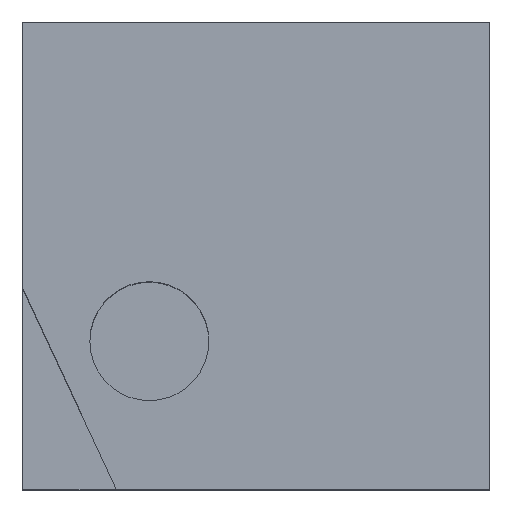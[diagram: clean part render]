
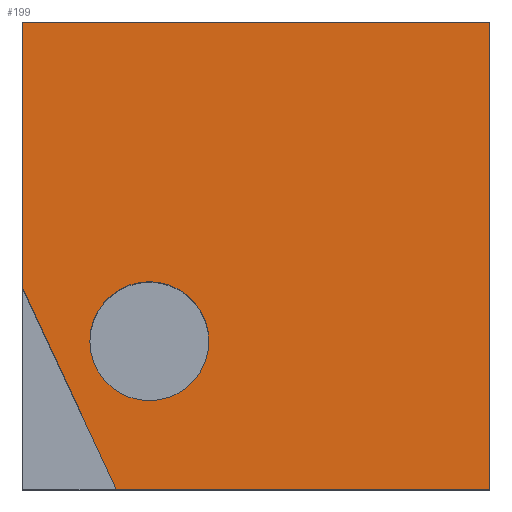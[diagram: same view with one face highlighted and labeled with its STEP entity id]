
A CAD part, top view. The second image highlights one B-rep face of the part: STEP entity #199.
In plain terms, the highlighted planar face has unit normal (0, 0, 1).
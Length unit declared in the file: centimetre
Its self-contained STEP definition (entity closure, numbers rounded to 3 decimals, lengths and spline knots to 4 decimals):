
#6 = ORIENTED_EDGE ( 'NONE', *, *, #131, .T. ) ;
#15 = VERTEX_POINT ( 'NONE', #294 ) ;
#16 = LINE ( 'NONE', #299, #300 ) ;
#19 = LINE ( 'NONE', #61, #280 ) ;
#22 = AXIS2_PLACEMENT_3D ( 'NONE', #463, #100, #373 ) ;
#41 = DIRECTION ( 'NONE',  ( 0., 1., 0. ) ) ;
#44 = DIRECTION ( 'NONE',  ( -1., 0., 0. ) ) ;
#61 = CARTESIAN_POINT ( 'NONE',  ( 0., 1000., 1000. ) ) ;
#65 = CARTESIAN_POINT ( 'NONE',  ( 0., 1000., 1000. ) ) ;
#72 = CARTESIAN_POINT ( 'NONE',  ( 0., 431.3213, 1000. ) ) ;
#78 = LINE ( 'NONE', #487, #493 ) ;
#83 = ORIENTED_EDGE ( 'NONE', *, *, #403, .T. ) ;
#90 = ORIENTED_EDGE ( 'NONE', *, *, #139, .T. ) ;
#91 = DIRECTION ( 'NONE',  ( -0.423, 0.906, 0. ) ) ;
#94 = EDGE_CURVE ( 'NONE', #381, #109, #207, .T. ) ;
#96 = ORIENTED_EDGE ( 'NONE', *, *, #183, .T. ) ;
#100 = DIRECTION ( 'NONE',  ( 0., 0., 1. ) ) ;
#103 = DIRECTION ( 'NONE',  ( 1., 0., 0. ) ) ;
#109 = VERTEX_POINT ( 'NONE', #225 ) ;
#112 = CARTESIAN_POINT ( 'NONE',  ( 0., 0., 1000. ) ) ;
#114 = VECTOR ( 'NONE', #44, 100. ) ;
#129 = CARTESIAN_POINT ( 'NONE',  ( 144.3077, 316.8072, 1000. ) ) ;
#131 = EDGE_CURVE ( 'NONE', #15, #212, #505, .T. ) ;
#139 = EDGE_CURVE ( 'NONE', #165, #516, #425, .T. ) ;
#140 = CARTESIAN_POINT ( 'NONE',  ( 0., 0., 1000. ) ) ;
#159 = FACE_BOUND ( 'NONE', #230, .T. ) ;
#165 = VERTEX_POINT ( 'NONE', #327 ) ;
#166 = DIRECTION ( 'NONE',  ( 0., 0., 1. ) ) ;
#183 = EDGE_CURVE ( 'NONE', #212, #165, #78, .T. ) ;
#199 = ADVANCED_FACE ( 'NONE', ( #159, #328 ), #321, .T. ) ;
#207 = CIRCLE ( 'NONE', #22, 127.4218 ) ;
#212 = VERTEX_POINT ( 'NONE', #285 ) ;
#221 = DIRECTION ( 'NONE',  ( 0., -1., 0. ) ) ;
#225 = CARTESIAN_POINT ( 'NONE',  ( 399.1514, 316.8072, 1000. ) ) ;
#230 = EDGE_LOOP ( 'NONE', ( #314, #511 ) ) ;
#251 = EDGE_LOOP ( 'NONE', ( #411, #6, #96, #90, #83 ) ) ;
#266 = AXIS2_PLACEMENT_3D ( 'NONE', #112, #166, #292 ) ;
#267 = DIRECTION ( 'NONE',  ( 1., 0., 0. ) ) ;
#280 = VECTOR ( 'NONE', #221, 100. ) ;
#285 = CARTESIAN_POINT ( 'NONE',  ( 1000., 0., 1000. ) ) ;
#292 = DIRECTION ( 'NONE',  ( 1., 0., 0. ) ) ;
#294 = CARTESIAN_POINT ( 'NONE',  ( 201.1581, 0., 1000. ) ) ;
#299 = CARTESIAN_POINT ( 'NONE',  ( 0., 431.3213, 1000. ) ) ;
#300 = VECTOR ( 'NONE', #91, 100. ) ;
#301 = EDGE_CURVE ( 'NONE', #15, #509, #16, .T. ) ;
#314 = ORIENTED_EDGE ( 'NONE', *, *, #455, .F. ) ;
#321 = PLANE ( 'NONE',  #266 ) ;
#327 = CARTESIAN_POINT ( 'NONE',  ( 1000., 1000., 1000. ) ) ;
#328 = FACE_OUTER_BOUND ( 'NONE', #251, .T. ) ;
#353 = CARTESIAN_POINT ( 'NONE',  ( 271.7295, 316.8072, 1000. ) ) ;
#373 = DIRECTION ( 'NONE',  ( 1., 0., 0. ) ) ;
#379 = CIRCLE ( 'NONE', #409, 127.4218 ) ;
#381 = VERTEX_POINT ( 'NONE', #129 ) ;
#395 = CARTESIAN_POINT ( 'NONE',  ( 0., 1000., 1000. ) ) ;
#403 = EDGE_CURVE ( 'NONE', #516, #509, #19, .T. ) ;
#409 = AXIS2_PLACEMENT_3D ( 'NONE', #353, #430, #267 ) ;
#411 = ORIENTED_EDGE ( 'NONE', *, *, #301, .F. ) ;
#425 = LINE ( 'NONE', #65, #114 ) ;
#430 = DIRECTION ( 'NONE',  ( 0., 0., 1. ) ) ;
#441 = VECTOR ( 'NONE', #103, 100. ) ;
#455 = EDGE_CURVE ( 'NONE', #109, #381, #379, .T. ) ;
#463 = CARTESIAN_POINT ( 'NONE',  ( 271.7295, 316.8072, 1000. ) ) ;
#487 = CARTESIAN_POINT ( 'NONE',  ( 1000., 1000., 1000. ) ) ;
#493 = VECTOR ( 'NONE', #41, 100. ) ;
#505 = LINE ( 'NONE', #140, #441 ) ;
#509 = VERTEX_POINT ( 'NONE', #72 ) ;
#511 = ORIENTED_EDGE ( 'NONE', *, *, #94, .F. ) ;
#516 = VERTEX_POINT ( 'NONE', #395 ) ;
